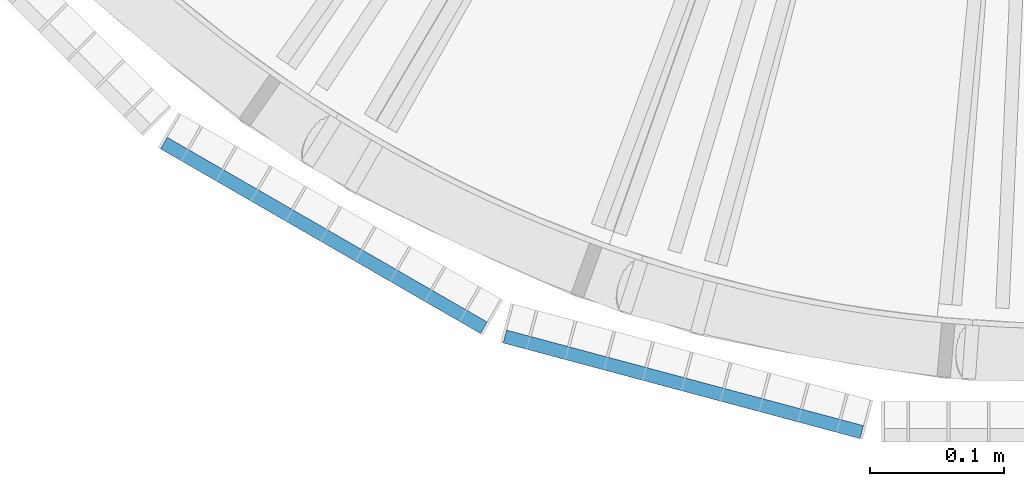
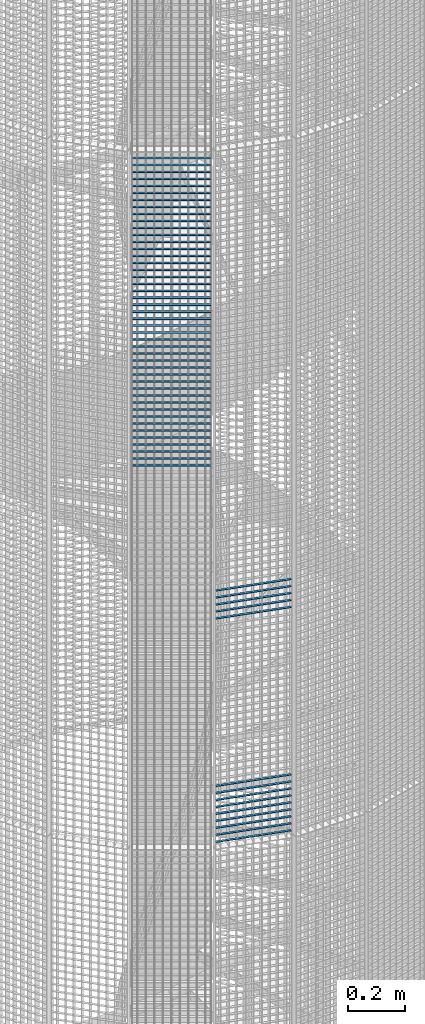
# One storey, part 166 of 1183: 59 beams, 2 elements without a shape of their own.
"""IFC2X3 building model written with IfcOpenShell, lengths in millimetres."""

from ifc_helpers import new_model, si_unit, frame, origin_with_axes, origin_2d_with_axis, place, context, subcontext, project, spatial, rectangle, extrude, material, type_object, element, aggregate, save


model = new_model("IFC2X3")

# Units and contexts
model_context = context("Model", 3, precision=1e-05, world=origin_with_axes())
body_context = subcontext(model_context, "Body", "Model", "MODEL_VIEW")
ifc_project = project(units=[si_unit("LENGTHUNIT", "METRE", prefix="MILLI"), si_unit("AREAUNIT", "SQUARE_METRE"), si_unit("VOLUMEUNIT", "CUBIC_METRE"), si_unit("MASSUNIT", "GRAM", prefix="KILO"), si_unit("TIMEUNIT", "SECOND"), si_unit("PLANEANGLEUNIT", "RADIAN"), si_unit("SOLIDANGLEUNIT", "STERADIAN"), si_unit("THERMODYNAMICTEMPERATUREUNIT", "DEGREE_CELSIUS"), si_unit("LUMINOUSINTENSITYUNIT", "LUMEN")], contexts=[model_context])

# Site, building, storey
site_placement = place(None, origin_with_axes())
site = spatial("IfcSite", under=ifc_project, at=site_placement, Name="Undefined", CompositionType="ELEMENT")
building_placement = place(site_placement, origin_with_axes())
building = spatial("IfcBuilding", under=site, at=building_placement, Name="Undefined", CompositionType="ELEMENT")
storey_placement = place(building_placement, origin_with_axes())
storey = spatial("IfcBuildingStorey", under=building, at=storey_placement, Name="Undefined", CompositionType="ELEMENT", Elevation=0.0)

# Assembly, beams
assembly_1_placement = place(storey_placement, origin_with_axes())
assembly_1 = element("IfcElementAssembly", 1, at=assembly_1_placement, inside=storey, Name="BORDURE", AssemblyPlace="NOTDEFINED", PredefinedType="NOTDEFINED")
ifc_material = material(Name="STEEL/S235JR")
beam_type = type_object("IfcBeamType", Name="PL2*10", PredefinedType="NOTDEFINED")
beam_1_placement = place(assembly_1_placement, frame((-421.483733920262, -1039.82309522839, 3270.0), z_axis=(-0.258819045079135, -0.965925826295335, 0.0), x_axis=(0.965925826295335, -0.258819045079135, 0.0)))
beam_1 = element("IfcBeam", 2, at=beam_1_placement, type_object=beam_type, material=ifc_material, Name="ENTRETOISE", context=body_context, shape_type="SweptSolid", body=[
    extrude(rectangle(XDim=2.0, YDim=10.0, at=origin_2d_with_axis()), frame((275.999999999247, 9.09494701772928e-13, 1.53210777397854e-14), z_axis=(-1.0, 0.0, 0.0), x_axis=(0.0, -1.0, 0.0)), (0.0, 0.0, 1.0), 276.0),
])
beam_2_placement = place(assembly_1_placement, frame((-421.483733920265, -1039.82309522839, 3990.0), z_axis=(-0.258819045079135, -0.965925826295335, 0.0), x_axis=(0.965925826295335, -0.258819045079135, 0.0)))
beam_2 = element("IfcBeam", 3, at=beam_2_placement, type_object=beam_type, material=ifc_material, Name="ENTRETOISE", context=body_context, shape_type="SweptSolid", body=[
    extrude(rectangle(XDim=2.0, YDim=10.0, at=origin_2d_with_axis()), frame((275.999999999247, 9.09494701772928e-13, 1.53210777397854e-14), z_axis=(-1.0, 0.0, 0.0), x_axis=(0.0, -1.0, 0.0)), (0.0, 0.0, 1.0), 276.0),
])
beam_3_placement = place(assembly_1_placement, frame((-421.483733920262, -1039.82309522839, 3240.0), z_axis=(-0.258819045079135, -0.965925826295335, 0.0), x_axis=(0.965925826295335, -0.258819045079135, 0.0)))
beam_3 = element("IfcBeam", 4, at=beam_3_placement, type_object=beam_type, material=ifc_material, Name="ENTRETOISE", context=body_context, shape_type="SweptSolid", body=[
    extrude(rectangle(XDim=2.0, YDim=10.0, at=origin_2d_with_axis()), frame((275.999999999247, 9.09494701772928e-13, 1.53210777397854e-14), z_axis=(-1.0, 0.0, 0.0), x_axis=(0.0, -1.0, 0.0)), (0.0, 0.0, 1.0), 276.0),
])
beam_4_placement = place(assembly_1_placement, frame((-421.483733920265, -1039.82309522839, 4020.0), z_axis=(-0.258819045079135, -0.965925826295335, 0.0), x_axis=(0.965925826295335, -0.258819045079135, 0.0)))
beam_4 = element("IfcBeam", 5, at=beam_4_placement, type_object=beam_type, material=ifc_material, Name="ENTRETOISE", context=body_context, shape_type="SweptSolid", body=[
    extrude(rectangle(XDim=2.0, YDim=10.0, at=origin_2d_with_axis()), frame((275.999999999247, 9.09494701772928e-13, 1.53210777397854e-14), z_axis=(-1.0, 0.0, 0.0), x_axis=(0.0, -1.0, 0.0)), (0.0, 0.0, 1.0), 276.0),
])
beam_5_placement = place(assembly_1_placement, frame((-421.483733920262, -1039.82309522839, 3210.0), z_axis=(-0.258819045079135, -0.965925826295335, 0.0), x_axis=(0.965925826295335, -0.258819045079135, 0.0)))
beam_5 = element("IfcBeam", 6, at=beam_5_placement, type_object=beam_type, material=ifc_material, Name="ENTRETOISE", context=body_context, shape_type="SweptSolid", body=[
    extrude(rectangle(XDim=2.0, YDim=10.0, at=origin_2d_with_axis()), frame((275.999999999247, 9.09494701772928e-13, 1.53210777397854e-14), z_axis=(-1.0, 0.0, 0.0), x_axis=(0.0, -1.0, 0.0)), (0.0, 0.0, 1.0), 276.0),
])
beam_6_placement = place(assembly_1_placement, frame((-421.483733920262, -1039.82309522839, 3180.0), z_axis=(-0.258819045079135, -0.965925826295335, 0.0), x_axis=(0.965925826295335, -0.258819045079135, 0.0)))
beam_6 = element("IfcBeam", 7, at=beam_6_placement, type_object=beam_type, material=ifc_material, Name="ENTRETOISE", context=body_context, shape_type="SweptSolid", body=[
    extrude(rectangle(XDim=2.0, YDim=10.0, at=origin_2d_with_axis()), frame((275.999999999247, 9.09494701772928e-13, 1.53210777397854e-14), z_axis=(-1.0, 0.0, 0.0), x_axis=(0.0, -1.0, 0.0)), (0.0, 0.0, 1.0), 276.0),
])
beam_7_placement = place(assembly_1_placement, frame((-421.483733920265, -1039.82309522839, 4050.0), z_axis=(-0.258819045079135, -0.965925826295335, 0.0), x_axis=(0.965925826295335, -0.258819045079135, 0.0)))
beam_7 = element("IfcBeam", 8, at=beam_7_placement, type_object=beam_type, material=ifc_material, Name="ENTRETOISE", context=body_context, shape_type="SweptSolid", body=[
    extrude(rectangle(XDim=2.0, YDim=10.0, at=origin_2d_with_axis()), frame((275.999999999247, 9.09494701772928e-13, 1.53210777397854e-14), z_axis=(-1.0, 0.0, 0.0), x_axis=(0.0, -1.0, 0.0)), (0.0, 0.0, 1.0), 276.0),
])
beam_8_placement = place(assembly_1_placement, frame((-421.483733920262, -1039.82309522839, 3150.0), z_axis=(-0.258819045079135, -0.965925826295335, 0.0), x_axis=(0.965925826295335, -0.258819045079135, 0.0)))
beam_8 = element("IfcBeam", 9, at=beam_8_placement, type_object=beam_type, material=ifc_material, Name="ENTRETOISE", context=body_context, shape_type="SweptSolid", body=[
    extrude(rectangle(XDim=2.0, YDim=10.0, at=origin_2d_with_axis()), frame((275.999999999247, 9.09494701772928e-13, 1.53210777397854e-14), z_axis=(-1.0, 0.0, 0.0), x_axis=(0.0, -1.0, 0.0)), (0.0, 0.0, 1.0), 276.0),
])
beam_9_placement = place(assembly_1_placement, frame((-421.483733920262, -1039.82309522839, 3120.0), z_axis=(-0.258819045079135, -0.965925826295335, 0.0), x_axis=(0.965925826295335, -0.258819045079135, 0.0)))
beam_9 = element("IfcBeam", 10, at=beam_9_placement, type_object=beam_type, material=ifc_material, Name="ENTRETOISE", context=body_context, shape_type="SweptSolid", body=[
    extrude(rectangle(XDim=2.0, YDim=10.0, at=origin_2d_with_axis()), frame((275.999999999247, 9.09494701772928e-13, 1.53210777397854e-14), z_axis=(-1.0, 0.0, 0.0), x_axis=(0.0, -1.0, 0.0)), (0.0, 0.0, 1.0), 276.0),
])
beam_10_placement = place(assembly_1_placement, frame((-421.483733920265, -1039.82309522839, 4080.0), z_axis=(-0.258819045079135, -0.965925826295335, 0.0), x_axis=(0.965925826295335, -0.258819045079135, 0.0)))
beam_10 = element("IfcBeam", 11, at=beam_10_placement, type_object=beam_type, material=ifc_material, Name="ENTRETOISE", context=body_context, shape_type="SweptSolid", body=[
    extrude(rectangle(XDim=2.0, YDim=10.0, at=origin_2d_with_axis()), frame((275.999999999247, 9.09494701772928e-13, 1.53210777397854e-14), z_axis=(-1.0, 0.0, 0.0), x_axis=(0.0, -1.0, 0.0)), (0.0, 0.0, 1.0), 276.0),
])
beam_11_placement = place(assembly_1_placement, frame((-421.483733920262, -1039.82309522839, 3090.0), z_axis=(-0.258819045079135, -0.965925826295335, 0.0), x_axis=(0.965925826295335, -0.258819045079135, 0.0)))
beam_11 = element("IfcBeam", 12, at=beam_11_placement, type_object=beam_type, material=ifc_material, Name="ENTRETOISE", context=body_context, shape_type="SweptSolid", body=[
    extrude(rectangle(XDim=2.0, YDim=10.0, at=origin_2d_with_axis()), frame((275.999999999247, 9.09494701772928e-13, 1.53210777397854e-14), z_axis=(-1.0, 0.0, 0.0), x_axis=(0.0, -1.0, 0.0)), (0.0, 0.0, 1.0), 276.0),
])
beam_12_placement = place(assembly_1_placement, frame((-421.483733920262, -1039.82309522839, 3060.0), z_axis=(-0.258819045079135, -0.965925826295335, 0.0), x_axis=(0.965925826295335, -0.258819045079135, 0.0)))
beam_12 = element("IfcBeam", 13, at=beam_12_placement, type_object=beam_type, material=ifc_material, Name="ENTRETOISE", context=body_context, shape_type="SweptSolid", body=[
    extrude(rectangle(XDim=2.0, YDim=10.0, at=origin_2d_with_axis()), frame((275.999999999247, 9.09494701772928e-13, 1.53210777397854e-14), z_axis=(-1.0, 0.0, 0.0), x_axis=(0.0, -1.0, 0.0)), (0.0, 0.0, 1.0), 276.0),
])
beam_13_placement = place(assembly_1_placement, frame((-421.483733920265, -1039.82309522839, 4110.0), z_axis=(-0.258819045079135, -0.965925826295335, 0.0), x_axis=(0.965925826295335, -0.258819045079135, 0.0)))
beam_13 = element("IfcBeam", 14, at=beam_13_placement, type_object=beam_type, material=ifc_material, Name="ENTRETOISE", context=body_context, shape_type="SweptSolid", body=[
    extrude(rectangle(XDim=2.0, YDim=10.0, at=origin_2d_with_axis()), frame((275.999999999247, 9.09494701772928e-13, 1.53210777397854e-14), z_axis=(-1.0, 0.0, 0.0), x_axis=(0.0, -1.0, 0.0)), (0.0, 0.0, 1.0), 276.0),
])
beam_14_placement = place(assembly_1_placement, frame((-421.48373392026, -1039.82309522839, 3030.0), z_axis=(-0.258819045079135, -0.965925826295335, 0.0), x_axis=(0.965925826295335, -0.258819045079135, 0.0)))
beam_14 = element("IfcBeam", 15, at=beam_14_placement, type_object=beam_type, material=ifc_material, Name="ENTRETOISE", context=body_context, shape_type="SweptSolid", body=[
    extrude(rectangle(XDim=2.0, YDim=10.0, at=origin_2d_with_axis()), frame((275.999999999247, 9.09494701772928e-13, 1.53210777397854e-14), z_axis=(-1.0, 0.0, 0.0), x_axis=(0.0, -1.0, 0.0)), (0.0, 0.0, 1.0), 276.0),
])
aggregate(assembly_1, [beam_1, beam_2, beam_3, beam_4, beam_5, beam_6, beam_7, beam_8, beam_9, beam_10, beam_11, beam_12, beam_13, beam_14])

assembly_2_placement = place(storey_placement, origin_with_axes())
assembly_2 = element("IfcElementAssembly", 16, at=assembly_2_placement, inside=storey, Name="BORDURE", AssemblyPlace="NOTDEFINED", PredefinedType="NOTDEFINED")
beam_15_placement = place(assembly_2_placement, frame((-676.248044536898, -895.303964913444, 5970.0), z_axis=(-0.49999999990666, -0.866025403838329, 0.0), x_axis=(0.866025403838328, -0.49999999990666, 0.0)))
beam_15 = element("IfcBeam", 17, at=beam_15_placement, type_object=beam_type, material=ifc_material, Name="ENTRETOISE", context=body_context, shape_type="SweptSolid", body=[
    extrude(rectangle(XDim=2.0, YDim=10.0, at=origin_2d_with_axis()), frame((275.999999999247, 9.09494701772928e-13, 1.53210777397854e-14), z_axis=(-1.0, 0.0, 0.0), x_axis=(0.0, -1.0, 0.0)), (0.0, 0.0, 1.0), 276.0),
])
beam_16_placement = place(assembly_2_placement, frame((-676.248044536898, -895.303964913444, 5940.0), z_axis=(-0.49999999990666, -0.866025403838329, 0.0), x_axis=(0.866025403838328, -0.49999999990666, 0.0)))
beam_16 = element("IfcBeam", 18, at=beam_16_placement, type_object=beam_type, material=ifc_material, Name="ENTRETOISE", context=body_context, shape_type="SweptSolid", body=[
    extrude(rectangle(XDim=2.0, YDim=10.0, at=origin_2d_with_axis()), frame((275.999999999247, 9.09494701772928e-13, 1.53210777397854e-14), z_axis=(-1.0, 0.0, 0.0), x_axis=(0.0, -1.0, 0.0)), (0.0, 0.0, 1.0), 276.0),
])
beam_17_placement = place(assembly_2_placement, frame((-676.248044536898, -895.303964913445, 5910.0), z_axis=(-0.49999999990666, -0.866025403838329, 0.0), x_axis=(0.866025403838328, -0.49999999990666, 0.0)))
beam_17 = element("IfcBeam", 19, at=beam_17_placement, type_object=beam_type, material=ifc_material, Name="ENTRETOISE", context=body_context, shape_type="SweptSolid", body=[
    extrude(rectangle(XDim=2.0, YDim=10.0, at=origin_2d_with_axis()), frame((275.999999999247, 9.09494701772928e-13, 1.53210777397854e-14), z_axis=(-1.0, 0.0, 0.0), x_axis=(0.0, -1.0, 0.0)), (0.0, 0.0, 1.0), 276.0),
])
beam_18_placement = place(assembly_2_placement, frame((-676.248044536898, -895.303964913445, 5880.0), z_axis=(-0.49999999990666, -0.866025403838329, 0.0), x_axis=(0.866025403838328, -0.49999999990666, 0.0)))
beam_18 = element("IfcBeam", 20, at=beam_18_placement, type_object=beam_type, material=ifc_material, Name="ENTRETOISE", context=body_context, shape_type="SweptSolid", body=[
    extrude(rectangle(XDim=2.0, YDim=10.0, at=origin_2d_with_axis()), frame((275.999999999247, 9.09494701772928e-13, 1.53210777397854e-14), z_axis=(-1.0, 0.0, 0.0), x_axis=(0.0, -1.0, 0.0)), (0.0, 0.0, 1.0), 276.0),
])
beam_19_placement = place(assembly_2_placement, frame((-676.248044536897, -895.303964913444, 5850.0), z_axis=(-0.49999999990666, -0.866025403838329, 0.0), x_axis=(0.866025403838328, -0.49999999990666, 0.0)))
beam_19 = element("IfcBeam", 21, at=beam_19_placement, type_object=beam_type, material=ifc_material, Name="ENTRETOISE", context=body_context, shape_type="SweptSolid", body=[
    extrude(rectangle(XDim=2.0, YDim=10.0, at=origin_2d_with_axis()), frame((275.999999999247, 9.09494701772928e-13, 1.53210777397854e-14), z_axis=(-1.0, 0.0, 0.0), x_axis=(0.0, -1.0, 0.0)), (0.0, 0.0, 1.0), 276.0),
])
beam_20_placement = place(assembly_2_placement, frame((-676.248044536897, -895.303964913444, 5820.0), z_axis=(-0.49999999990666, -0.866025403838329, 0.0), x_axis=(0.866025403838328, -0.49999999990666, 0.0)))
beam_20 = element("IfcBeam", 22, at=beam_20_placement, type_object=beam_type, material=ifc_material, Name="ENTRETOISE", context=body_context, shape_type="SweptSolid", body=[
    extrude(rectangle(XDim=2.0, YDim=10.0, at=origin_2d_with_axis()), frame((275.999999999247, 9.09494701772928e-13, 1.53210777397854e-14), z_axis=(-1.0, 0.0, 0.0), x_axis=(0.0, -1.0, 0.0)), (0.0, 0.0, 1.0), 276.0),
])
beam_21_placement = place(assembly_2_placement, frame((-676.248044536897, -895.303964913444, 5790.0), z_axis=(-0.49999999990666, -0.866025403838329, 0.0), x_axis=(0.866025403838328, -0.49999999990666, 0.0)))
beam_21 = element("IfcBeam", 23, at=beam_21_placement, type_object=beam_type, material=ifc_material, Name="ENTRETOISE", context=body_context, shape_type="SweptSolid", body=[
    extrude(rectangle(XDim=2.0, YDim=10.0, at=origin_2d_with_axis()), frame((275.999999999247, 9.09494701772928e-13, 1.53210777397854e-14), z_axis=(-1.0, 0.0, 0.0), x_axis=(0.0, -1.0, 0.0)), (0.0, 0.0, 1.0), 276.0),
])
beam_22_placement = place(assembly_2_placement, frame((-676.248044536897, -895.303964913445, 5760.0), z_axis=(-0.49999999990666, -0.866025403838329, 0.0), x_axis=(0.866025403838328, -0.49999999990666, 0.0)))
beam_22 = element("IfcBeam", 24, at=beam_22_placement, type_object=beam_type, material=ifc_material, Name="ENTRETOISE", context=body_context, shape_type="SweptSolid", body=[
    extrude(rectangle(XDim=2.0, YDim=10.0, at=origin_2d_with_axis()), frame((275.999999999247, 9.09494701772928e-13, 1.53210777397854e-14), z_axis=(-1.0, 0.0, 0.0), x_axis=(0.0, -1.0, 0.0)), (0.0, 0.0, 1.0), 276.0),
])
beam_23_placement = place(assembly_2_placement, frame((-676.248044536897, -895.303964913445, 5730.0), z_axis=(-0.49999999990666, -0.866025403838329, 0.0), x_axis=(0.866025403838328, -0.49999999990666, 0.0)))
beam_23 = element("IfcBeam", 25, at=beam_23_placement, type_object=beam_type, material=ifc_material, Name="ENTRETOISE", context=body_context, shape_type="SweptSolid", body=[
    extrude(rectangle(XDim=2.0, YDim=10.0, at=origin_2d_with_axis()), frame((275.999999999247, 9.09494701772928e-13, 1.53210777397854e-14), z_axis=(-1.0, 0.0, 0.0), x_axis=(0.0, -1.0, 0.0)), (0.0, 0.0, 1.0), 276.0),
])
beam_24_placement = place(assembly_2_placement, frame((-676.248044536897, -895.303964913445, 5700.0), z_axis=(-0.49999999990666, -0.866025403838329, 0.0), x_axis=(0.866025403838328, -0.49999999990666, 0.0)))
beam_24 = element("IfcBeam", 26, at=beam_24_placement, type_object=beam_type, material=ifc_material, Name="ENTRETOISE", context=body_context, shape_type="SweptSolid", body=[
    extrude(rectangle(XDim=2.0, YDim=10.0, at=origin_2d_with_axis()), frame((275.999999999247, 9.09494701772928e-13, 1.53210777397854e-14), z_axis=(-1.0, 0.0, 0.0), x_axis=(0.0, -1.0, 0.0)), (0.0, 0.0, 1.0), 276.0),
])
beam_25_placement = place(assembly_2_placement, frame((-676.248044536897, -895.303964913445, 5670.0), z_axis=(-0.49999999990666, -0.866025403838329, 0.0), x_axis=(0.866025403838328, -0.49999999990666, 0.0)))
beam_25 = element("IfcBeam", 27, at=beam_25_placement, type_object=beam_type, material=ifc_material, Name="ENTRETOISE", context=body_context, shape_type="SweptSolid", body=[
    extrude(rectangle(XDim=2.0, YDim=10.0, at=origin_2d_with_axis()), frame((275.999999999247, 9.09494701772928e-13, 1.53210777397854e-14), z_axis=(-1.0, 0.0, 0.0), x_axis=(0.0, -1.0, 0.0)), (0.0, 0.0, 1.0), 276.0),
])
beam_26_placement = place(assembly_2_placement, frame((-676.248044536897, -895.303964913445, 5640.0), z_axis=(-0.49999999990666, -0.866025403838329, 0.0), x_axis=(0.866025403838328, -0.49999999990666, 0.0)))
beam_26 = element("IfcBeam", 28, at=beam_26_placement, type_object=beam_type, material=ifc_material, Name="ENTRETOISE", context=body_context, shape_type="SweptSolid", body=[
    extrude(rectangle(XDim=2.0, YDim=10.0, at=origin_2d_with_axis()), frame((275.999999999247, 9.09494701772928e-13, 1.53210777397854e-14), z_axis=(-1.0, 0.0, 0.0), x_axis=(0.0, -1.0, 0.0)), (0.0, 0.0, 1.0), 276.0),
])
beam_27_placement = place(assembly_2_placement, frame((-676.248044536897, -895.303964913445, 5610.0), z_axis=(-0.49999999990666, -0.866025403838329, 0.0), x_axis=(0.866025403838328, -0.49999999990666, 0.0)))
beam_27 = element("IfcBeam", 29, at=beam_27_placement, type_object=beam_type, material=ifc_material, Name="ENTRETOISE", context=body_context, shape_type="SweptSolid", body=[
    extrude(rectangle(XDim=2.0, YDim=10.0, at=origin_2d_with_axis()), frame((275.999999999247, 9.09494701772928e-13, 1.53210777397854e-14), z_axis=(-1.0, 0.0, 0.0), x_axis=(0.0, -1.0, 0.0)), (0.0, 0.0, 1.0), 276.0),
])
beam_28_placement = place(assembly_2_placement, frame((-676.248044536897, -895.303964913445, 5580.0), z_axis=(-0.49999999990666, -0.866025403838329, 0.0), x_axis=(0.866025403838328, -0.49999999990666, 0.0)))
beam_28 = element("IfcBeam", 30, at=beam_28_placement, type_object=beam_type, material=ifc_material, Name="ENTRETOISE", context=body_context, shape_type="SweptSolid", body=[
    extrude(rectangle(XDim=2.0, YDim=10.0, at=origin_2d_with_axis()), frame((275.999999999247, 9.09494701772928e-13, 1.53210777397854e-14), z_axis=(-1.0, 0.0, 0.0), x_axis=(0.0, -1.0, 0.0)), (0.0, 0.0, 1.0), 276.0),
])
beam_29_placement = place(assembly_2_placement, frame((-676.248044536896, -895.303964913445, 5550.0), z_axis=(-0.49999999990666, -0.866025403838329, 0.0), x_axis=(0.866025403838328, -0.49999999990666, 0.0)))
beam_29 = element("IfcBeam", 31, at=beam_29_placement, type_object=beam_type, material=ifc_material, Name="ENTRETOISE", context=body_context, shape_type="SweptSolid", body=[
    extrude(rectangle(XDim=2.0, YDim=10.0, at=origin_2d_with_axis()), frame((275.999999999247, 9.09494701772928e-13, 1.53210777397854e-14), z_axis=(-1.0, 0.0, 0.0), x_axis=(0.0, -1.0, 0.0)), (0.0, 0.0, 1.0), 276.0),
])
beam_30_placement = place(assembly_2_placement, frame((-676.248044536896, -895.303964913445, 5520.0), z_axis=(-0.49999999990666, -0.866025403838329, 0.0), x_axis=(0.866025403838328, -0.49999999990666, 0.0)))
beam_30 = element("IfcBeam", 32, at=beam_30_placement, type_object=beam_type, material=ifc_material, Name="ENTRETOISE", context=body_context, shape_type="SweptSolid", body=[
    extrude(rectangle(XDim=2.0, YDim=10.0, at=origin_2d_with_axis()), frame((275.999999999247, 9.09494701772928e-13, 1.53210777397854e-14), z_axis=(-1.0, 0.0, 0.0), x_axis=(0.0, -1.0, 0.0)), (0.0, 0.0, 1.0), 276.0),
])
beam_31_placement = place(assembly_2_placement, frame((-676.248044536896, -895.303964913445, 5490.0), z_axis=(-0.49999999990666, -0.866025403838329, 0.0), x_axis=(0.866025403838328, -0.49999999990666, 0.0)))
beam_31 = element("IfcBeam", 33, at=beam_31_placement, type_object=beam_type, material=ifc_material, Name="ENTRETOISE", context=body_context, shape_type="SweptSolid", body=[
    extrude(rectangle(XDim=2.0, YDim=10.0, at=origin_2d_with_axis()), frame((275.999999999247, 9.09494701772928e-13, 1.53210777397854e-14), z_axis=(-1.0, 0.0, 0.0), x_axis=(0.0, -1.0, 0.0)), (0.0, 0.0, 1.0), 276.0),
])
beam_32_placement = place(assembly_2_placement, frame((-676.248044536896, -895.303964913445, 5460.0), z_axis=(-0.49999999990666, -0.866025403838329, 0.0), x_axis=(0.866025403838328, -0.49999999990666, 0.0)))
beam_32 = element("IfcBeam", 34, at=beam_32_placement, type_object=beam_type, material=ifc_material, Name="ENTRETOISE", context=body_context, shape_type="SweptSolid", body=[
    extrude(rectangle(XDim=2.0, YDim=10.0, at=origin_2d_with_axis()), frame((275.999999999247, 9.09494701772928e-13, 1.53210777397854e-14), z_axis=(-1.0, 0.0, 0.0), x_axis=(0.0, -1.0, 0.0)), (0.0, 0.0, 1.0), 276.0),
])
beam_33_placement = place(assembly_2_placement, frame((-676.248044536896, -895.303964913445, 5430.0), z_axis=(-0.49999999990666, -0.866025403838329, 0.0), x_axis=(0.866025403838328, -0.49999999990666, 0.0)))
beam_33 = element("IfcBeam", 35, at=beam_33_placement, type_object=beam_type, material=ifc_material, Name="ENTRETOISE", context=body_context, shape_type="SweptSolid", body=[
    extrude(rectangle(XDim=2.0, YDim=10.0, at=origin_2d_with_axis()), frame((275.999999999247, 9.09494701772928e-13, 1.53210777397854e-14), z_axis=(-1.0, 0.0, 0.0), x_axis=(0.0, -1.0, 0.0)), (0.0, 0.0, 1.0), 276.0),
])
beam_34_placement = place(assembly_2_placement, frame((-676.248044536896, -895.303964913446, 5400.0), z_axis=(-0.49999999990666, -0.866025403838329, 0.0), x_axis=(0.866025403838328, -0.49999999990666, 0.0)))
beam_34 = element("IfcBeam", 36, at=beam_34_placement, type_object=beam_type, material=ifc_material, Name="ENTRETOISE", context=body_context, shape_type="SweptSolid", body=[
    extrude(rectangle(XDim=2.0, YDim=10.0, at=origin_2d_with_axis()), frame((275.999999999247, 9.09494701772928e-13, 1.53210777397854e-14), z_axis=(-1.0, 0.0, 0.0), x_axis=(0.0, -1.0, 0.0)), (0.0, 0.0, 1.0), 276.0),
])
beam_35_placement = place(assembly_2_placement, frame((-676.248044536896, -895.303964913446, 5370.0), z_axis=(-0.49999999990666, -0.866025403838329, 0.0), x_axis=(0.866025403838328, -0.49999999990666, 0.0)))
beam_35 = element("IfcBeam", 37, at=beam_35_placement, type_object=beam_type, material=ifc_material, Name="ENTRETOISE", context=body_context, shape_type="SweptSolid", body=[
    extrude(rectangle(XDim=2.0, YDim=10.0, at=origin_2d_with_axis()), frame((275.999999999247, 9.09494701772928e-13, 1.53210777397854e-14), z_axis=(-1.0, 0.0, 0.0), x_axis=(0.0, -1.0, 0.0)), (0.0, 0.0, 1.0), 276.0),
])
beam_36_placement = place(assembly_2_placement, frame((-676.248044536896, -895.303964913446, 5340.0), z_axis=(-0.49999999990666, -0.866025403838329, 0.0), x_axis=(0.866025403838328, -0.49999999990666, 0.0)))
beam_36 = element("IfcBeam", 38, at=beam_36_placement, type_object=beam_type, material=ifc_material, Name="ENTRETOISE", context=body_context, shape_type="SweptSolid", body=[
    extrude(rectangle(XDim=2.0, YDim=10.0, at=origin_2d_with_axis()), frame((275.999999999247, 9.09494701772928e-13, 1.53210777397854e-14), z_axis=(-1.0, 0.0, 0.0), x_axis=(0.0, -1.0, 0.0)), (0.0, 0.0, 1.0), 276.0),
])
beam_37_placement = place(assembly_2_placement, frame((-676.248044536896, -895.303964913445, 5310.0), z_axis=(-0.49999999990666, -0.866025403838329, 0.0), x_axis=(0.866025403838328, -0.49999999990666, 0.0)))
beam_37 = element("IfcBeam", 39, at=beam_37_placement, type_object=beam_type, material=ifc_material, Name="ENTRETOISE", context=body_context, shape_type="SweptSolid", body=[
    extrude(rectangle(XDim=2.0, YDim=10.0, at=origin_2d_with_axis()), frame((275.999999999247, 9.09494701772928e-13, 1.53210777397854e-14), z_axis=(-1.0, 0.0, 0.0), x_axis=(0.0, -1.0, 0.0)), (0.0, 0.0, 1.0), 276.0),
])
beam_38_placement = place(assembly_2_placement, frame((-676.248044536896, -895.303964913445, 5280.0), z_axis=(-0.49999999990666, -0.866025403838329, 0.0), x_axis=(0.866025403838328, -0.49999999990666, 0.0)))
beam_38 = element("IfcBeam", 40, at=beam_38_placement, type_object=beam_type, material=ifc_material, Name="ENTRETOISE", context=body_context, shape_type="SweptSolid", body=[
    extrude(rectangle(XDim=2.0, YDim=10.0, at=origin_2d_with_axis()), frame((275.999999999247, 9.09494701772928e-13, 1.53210777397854e-14), z_axis=(-1.0, 0.0, 0.0), x_axis=(0.0, -1.0, 0.0)), (0.0, 0.0, 1.0), 276.0),
])
beam_39_placement = place(assembly_2_placement, frame((-676.248044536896, -895.303964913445, 5250.0), z_axis=(-0.49999999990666, -0.866025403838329, 0.0), x_axis=(0.866025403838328, -0.49999999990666, 0.0)))
beam_39 = element("IfcBeam", 41, at=beam_39_placement, type_object=beam_type, material=ifc_material, Name="ENTRETOISE", context=body_context, shape_type="SweptSolid", body=[
    extrude(rectangle(XDim=2.0, YDim=10.0, at=origin_2d_with_axis()), frame((275.999999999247, 9.09494701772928e-13, 1.53210777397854e-14), z_axis=(-1.0, 0.0, 0.0), x_axis=(0.0, -1.0, 0.0)), (0.0, 0.0, 1.0), 276.0),
])
beam_40_placement = place(assembly_2_placement, frame((-676.248044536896, -895.303964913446, 5220.0), z_axis=(-0.49999999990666, -0.866025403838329, 0.0), x_axis=(0.866025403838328, -0.49999999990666, 0.0)))
beam_40 = element("IfcBeam", 42, at=beam_40_placement, type_object=beam_type, material=ifc_material, Name="ENTRETOISE", context=body_context, shape_type="SweptSolid", body=[
    extrude(rectangle(XDim=2.0, YDim=10.0, at=origin_2d_with_axis()), frame((275.999999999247, 9.09494701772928e-13, 1.53210777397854e-14), z_axis=(-1.0, 0.0, 0.0), x_axis=(0.0, -1.0, 0.0)), (0.0, 0.0, 1.0), 276.0),
])
beam_41_placement = place(assembly_2_placement, frame((-676.248044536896, -895.303964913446, 5190.0), z_axis=(-0.49999999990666, -0.866025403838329, 0.0), x_axis=(0.866025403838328, -0.49999999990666, 0.0)))
beam_41 = element("IfcBeam", 43, at=beam_41_placement, type_object=beam_type, material=ifc_material, Name="ENTRETOISE", context=body_context, shape_type="SweptSolid", body=[
    extrude(rectangle(XDim=2.0, YDim=10.0, at=origin_2d_with_axis()), frame((275.999999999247, 9.09494701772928e-13, 1.53210777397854e-14), z_axis=(-1.0, 0.0, 0.0), x_axis=(0.0, -1.0, 0.0)), (0.0, 0.0, 1.0), 276.0),
])
beam_42_placement = place(assembly_2_placement, frame((-676.248044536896, -895.303964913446, 5160.0), z_axis=(-0.49999999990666, -0.866025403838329, 0.0), x_axis=(0.866025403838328, -0.49999999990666, 0.0)))
beam_42 = element("IfcBeam", 44, at=beam_42_placement, type_object=beam_type, material=ifc_material, Name="ENTRETOISE", context=body_context, shape_type="SweptSolid", body=[
    extrude(rectangle(XDim=2.0, YDim=10.0, at=origin_2d_with_axis()), frame((275.999999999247, 9.09494701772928e-13, 1.53210777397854e-14), z_axis=(-1.0, 0.0, 0.0), x_axis=(0.0, -1.0, 0.0)), (0.0, 0.0, 1.0), 276.0),
])
beam_43_placement = place(assembly_2_placement, frame((-676.248044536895, -895.303964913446, 5130.0), z_axis=(-0.49999999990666, -0.866025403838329, 0.0), x_axis=(0.866025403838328, -0.49999999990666, 0.0)))
beam_43 = element("IfcBeam", 45, at=beam_43_placement, type_object=beam_type, material=ifc_material, Name="ENTRETOISE", context=body_context, shape_type="SweptSolid", body=[
    extrude(rectangle(XDim=2.0, YDim=10.0, at=origin_2d_with_axis()), frame((275.999999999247, 9.09494701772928e-13, 1.53210777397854e-14), z_axis=(-1.0, 0.0, 0.0), x_axis=(0.0, -1.0, 0.0)), (0.0, 0.0, 1.0), 276.0),
])
beam_44_placement = place(assembly_2_placement, frame((-676.248044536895, -895.303964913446, 5100.0), z_axis=(-0.49999999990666, -0.866025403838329, 0.0), x_axis=(0.866025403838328, -0.49999999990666, 0.0)))
beam_44 = element("IfcBeam", 46, at=beam_44_placement, type_object=beam_type, material=ifc_material, Name="ENTRETOISE", context=body_context, shape_type="SweptSolid", body=[
    extrude(rectangle(XDim=2.0, YDim=10.0, at=origin_2d_with_axis()), frame((275.999999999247, 9.09494701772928e-13, 1.53210777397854e-14), z_axis=(-1.0, 0.0, 0.0), x_axis=(0.0, -1.0, 0.0)), (0.0, 0.0, 1.0), 276.0),
])
beam_45_placement = place(assembly_2_placement, frame((-676.248044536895, -895.303964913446, 5070.0), z_axis=(-0.49999999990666, -0.866025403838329, 0.0), x_axis=(0.866025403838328, -0.49999999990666, 0.0)))
beam_45 = element("IfcBeam", 47, at=beam_45_placement, type_object=beam_type, material=ifc_material, Name="ENTRETOISE", context=body_context, shape_type="SweptSolid", body=[
    extrude(rectangle(XDim=2.0, YDim=10.0, at=origin_2d_with_axis()), frame((275.999999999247, 9.09494701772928e-13, 1.53210777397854e-14), z_axis=(-1.0, 0.0, 0.0), x_axis=(0.0, -1.0, 0.0)), (0.0, 0.0, 1.0), 276.0),
])
beam_46_placement = place(assembly_2_placement, frame((-676.248044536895, -895.303964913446, 5040.0), z_axis=(-0.49999999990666, -0.866025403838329, 0.0), x_axis=(0.866025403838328, -0.49999999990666, 0.0)))
beam_46 = element("IfcBeam", 48, at=beam_46_placement, type_object=beam_type, material=ifc_material, Name="ENTRETOISE", context=body_context, shape_type="SweptSolid", body=[
    extrude(rectangle(XDim=2.0, YDim=10.0, at=origin_2d_with_axis()), frame((275.999999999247, 9.09494701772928e-13, 1.53210777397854e-14), z_axis=(-1.0, 0.0, 0.0), x_axis=(0.0, -1.0, 0.0)), (0.0, 0.0, 1.0), 276.0),
])
beam_47_placement = place(assembly_2_placement, frame((-676.248044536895, -895.303964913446, 5010.0), z_axis=(-0.49999999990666, -0.866025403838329, 0.0), x_axis=(0.866025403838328, -0.49999999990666, 0.0)))
beam_47 = element("IfcBeam", 49, at=beam_47_placement, type_object=beam_type, material=ifc_material, Name="ENTRETOISE", context=body_context, shape_type="SweptSolid", body=[
    extrude(rectangle(XDim=2.0, YDim=10.0, at=origin_2d_with_axis()), frame((275.999999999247, 9.09494701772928e-13, 1.53210777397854e-14), z_axis=(-1.0, 0.0, 0.0), x_axis=(0.0, -1.0, 0.0)), (0.0, 0.0, 1.0), 276.0),
])
beam_48_placement = place(assembly_2_placement, frame((-676.248044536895, -895.303964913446, 4980.0), z_axis=(-0.49999999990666, -0.866025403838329, 0.0), x_axis=(0.866025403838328, -0.49999999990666, 0.0)))
beam_48 = element("IfcBeam", 50, at=beam_48_placement, type_object=beam_type, material=ifc_material, Name="ENTRETOISE", context=body_context, shape_type="SweptSolid", body=[
    extrude(rectangle(XDim=2.0, YDim=10.0, at=origin_2d_with_axis()), frame((275.999999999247, 9.09494701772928e-13, 1.53210777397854e-14), z_axis=(-1.0, 0.0, 0.0), x_axis=(0.0, -1.0, 0.0)), (0.0, 0.0, 1.0), 276.0),
])
beam_49_placement = place(assembly_2_placement, frame((-676.248044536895, -895.303964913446, 4950.0), z_axis=(-0.49999999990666, -0.866025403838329, 0.0), x_axis=(0.866025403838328, -0.49999999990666, 0.0)))
beam_49 = element("IfcBeam", 51, at=beam_49_placement, type_object=beam_type, material=ifc_material, Name="ENTRETOISE", context=body_context, shape_type="SweptSolid", body=[
    extrude(rectangle(XDim=2.0, YDim=10.0, at=origin_2d_with_axis()), frame((275.999999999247, 9.09494701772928e-13, 1.53210777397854e-14), z_axis=(-1.0, 0.0, 0.0), x_axis=(0.0, -1.0, 0.0)), (0.0, 0.0, 1.0), 276.0),
])
beam_50_placement = place(assembly_2_placement, frame((-676.248044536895, -895.303964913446, 4920.0), z_axis=(-0.49999999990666, -0.866025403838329, 0.0), x_axis=(0.866025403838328, -0.49999999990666, 0.0)))
beam_50 = element("IfcBeam", 52, at=beam_50_placement, type_object=beam_type, material=ifc_material, Name="ENTRETOISE", context=body_context, shape_type="SweptSolid", body=[
    extrude(rectangle(XDim=2.0, YDim=10.0, at=origin_2d_with_axis()), frame((275.999999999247, 9.09494701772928e-13, 1.53210777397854e-14), z_axis=(-1.0, 0.0, 0.0), x_axis=(0.0, -1.0, 0.0)), (0.0, 0.0, 1.0), 276.0),
])
beam_51_placement = place(assembly_2_placement, frame((-676.248044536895, -895.303964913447, 4890.0), z_axis=(-0.49999999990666, -0.866025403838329, 0.0), x_axis=(0.866025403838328, -0.49999999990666, 0.0)))
beam_51 = element("IfcBeam", 53, at=beam_51_placement, type_object=beam_type, material=ifc_material, Name="ENTRETOISE", context=body_context, shape_type="SweptSolid", body=[
    extrude(rectangle(XDim=2.0, YDim=10.0, at=origin_2d_with_axis()), frame((275.999999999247, 9.09494701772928e-13, 1.53210777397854e-14), z_axis=(-1.0, 0.0, 0.0), x_axis=(0.0, -1.0, 0.0)), (0.0, 0.0, 1.0), 276.0),
])
beam_52_placement = place(assembly_2_placement, frame((-676.248044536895, -895.303964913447, 4860.0), z_axis=(-0.49999999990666, -0.866025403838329, 0.0), x_axis=(0.866025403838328, -0.49999999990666, 0.0)))
beam_52 = element("IfcBeam", 54, at=beam_52_placement, type_object=beam_type, material=ifc_material, Name="ENTRETOISE", context=body_context, shape_type="SweptSolid", body=[
    extrude(rectangle(XDim=2.0, YDim=10.0, at=origin_2d_with_axis()), frame((275.999999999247, 9.09494701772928e-13, 1.53210777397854e-14), z_axis=(-1.0, 0.0, 0.0), x_axis=(0.0, -1.0, 0.0)), (0.0, 0.0, 1.0), 276.0),
])
beam_53_placement = place(assembly_2_placement, frame((-676.248044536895, -895.303964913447, 4830.0), z_axis=(-0.49999999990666, -0.866025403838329, 0.0), x_axis=(0.866025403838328, -0.49999999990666, 0.0)))
beam_53 = element("IfcBeam", 55, at=beam_53_placement, type_object=beam_type, material=ifc_material, Name="ENTRETOISE", context=body_context, shape_type="SweptSolid", body=[
    extrude(rectangle(XDim=2.0, YDim=10.0, at=origin_2d_with_axis()), frame((275.999999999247, 9.09494701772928e-13, 1.53210777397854e-14), z_axis=(-1.0, 0.0, 0.0), x_axis=(0.0, -1.0, 0.0)), (0.0, 0.0, 1.0), 276.0),
])
beam_54_placement = place(assembly_2_placement, frame((-676.248044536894, -895.303964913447, 4800.0), z_axis=(-0.49999999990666, -0.866025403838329, 0.0), x_axis=(0.866025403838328, -0.49999999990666, 0.0)))
beam_54 = element("IfcBeam", 56, at=beam_54_placement, type_object=beam_type, material=ifc_material, Name="ENTRETOISE", context=body_context, shape_type="SweptSolid", body=[
    extrude(rectangle(XDim=2.0, YDim=10.0, at=origin_2d_with_axis()), frame((275.999999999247, 9.09494701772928e-13, 1.53210777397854e-14), z_axis=(-1.0, 0.0, 0.0), x_axis=(0.0, -1.0, 0.0)), (0.0, 0.0, 1.0), 276.0),
])
beam_55_placement = place(assembly_2_placement, frame((-676.248044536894, -895.303964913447, 4770.0), z_axis=(-0.49999999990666, -0.866025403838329, 0.0), x_axis=(0.866025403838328, -0.49999999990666, 0.0)))
beam_55 = element("IfcBeam", 57, at=beam_55_placement, type_object=beam_type, material=ifc_material, Name="ENTRETOISE", context=body_context, shape_type="SweptSolid", body=[
    extrude(rectangle(XDim=2.0, YDim=10.0, at=origin_2d_with_axis()), frame((275.999999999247, 9.09494701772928e-13, 1.53210777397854e-14), z_axis=(-1.0, 0.0, 0.0), x_axis=(0.0, -1.0, 0.0)), (0.0, 0.0, 1.0), 276.0),
])
beam_56_placement = place(assembly_2_placement, frame((-676.248044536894, -895.303964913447, 4740.0), z_axis=(-0.49999999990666, -0.866025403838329, 0.0), x_axis=(0.866025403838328, -0.49999999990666, 0.0)))
beam_56 = element("IfcBeam", 58, at=beam_56_placement, type_object=beam_type, material=ifc_material, Name="ENTRETOISE", context=body_context, shape_type="SweptSolid", body=[
    extrude(rectangle(XDim=2.0, YDim=10.0, at=origin_2d_with_axis()), frame((275.999999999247, 9.09494701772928e-13, 1.53210777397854e-14), z_axis=(-1.0, 0.0, 0.0), x_axis=(0.0, -1.0, 0.0)), (0.0, 0.0, 1.0), 276.0),
])
beam_57_placement = place(assembly_2_placement, frame((-676.248044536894, -895.303964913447, 4710.0), z_axis=(-0.49999999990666, -0.866025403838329, 0.0), x_axis=(0.866025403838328, -0.49999999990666, 0.0)))
beam_57 = element("IfcBeam", 59, at=beam_57_placement, type_object=beam_type, material=ifc_material, Name="ENTRETOISE", context=body_context, shape_type="SweptSolid", body=[
    extrude(rectangle(XDim=2.0, YDim=10.0, at=origin_2d_with_axis()), frame((275.999999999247, 9.09494701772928e-13, 1.53210777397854e-14), z_axis=(-1.0, 0.0, 0.0), x_axis=(0.0, -1.0, 0.0)), (0.0, 0.0, 1.0), 276.0),
])
beam_58_placement = place(assembly_2_placement, frame((-676.248044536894, -895.303964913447, 4680.0), z_axis=(-0.49999999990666, -0.866025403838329, 0.0), x_axis=(0.866025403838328, -0.49999999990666, 0.0)))
beam_58 = element("IfcBeam", 60, at=beam_58_placement, type_object=beam_type, material=ifc_material, Name="ENTRETOISE", context=body_context, shape_type="SweptSolid", body=[
    extrude(rectangle(XDim=2.0, YDim=10.0, at=origin_2d_with_axis()), frame((275.999999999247, 9.09494701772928e-13, 1.53210777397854e-14), z_axis=(-1.0, 0.0, 0.0), x_axis=(0.0, -1.0, 0.0)), (0.0, 0.0, 1.0), 276.0),
])
beam_59_placement = place(assembly_2_placement, frame((-676.248044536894, -895.303964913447, 4650.0), z_axis=(-0.49999999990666, -0.866025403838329, 0.0), x_axis=(0.866025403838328, -0.49999999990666, 0.0)))
beam_59 = element("IfcBeam", 61, at=beam_59_placement, type_object=beam_type, material=ifc_material, Name="ENTRETOISE", context=body_context, shape_type="SweptSolid", body=[
    extrude(rectangle(XDim=2.0, YDim=10.0, at=origin_2d_with_axis()), frame((275.999999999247, 9.09494701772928e-13, 1.53210777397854e-14), z_axis=(-1.0, 0.0, 0.0), x_axis=(0.0, -1.0, 0.0)), (0.0, 0.0, 1.0), 276.0),
])
aggregate(assembly_2, [beam_15, beam_16, beam_17, beam_18, beam_19, beam_20, beam_21, beam_22, beam_23, beam_24, beam_25, beam_26, beam_27, beam_28, beam_29, beam_30, beam_31, beam_32, beam_33, beam_34, beam_35, beam_36, beam_37, beam_38, beam_39, beam_40, beam_41, beam_42, beam_43, beam_44, beam_45, beam_46, beam_47, beam_48, beam_49, beam_50, beam_51, beam_52, beam_53, beam_54, beam_55, beam_56, beam_57, beam_58, beam_59])

save(model, "model.ifc")
